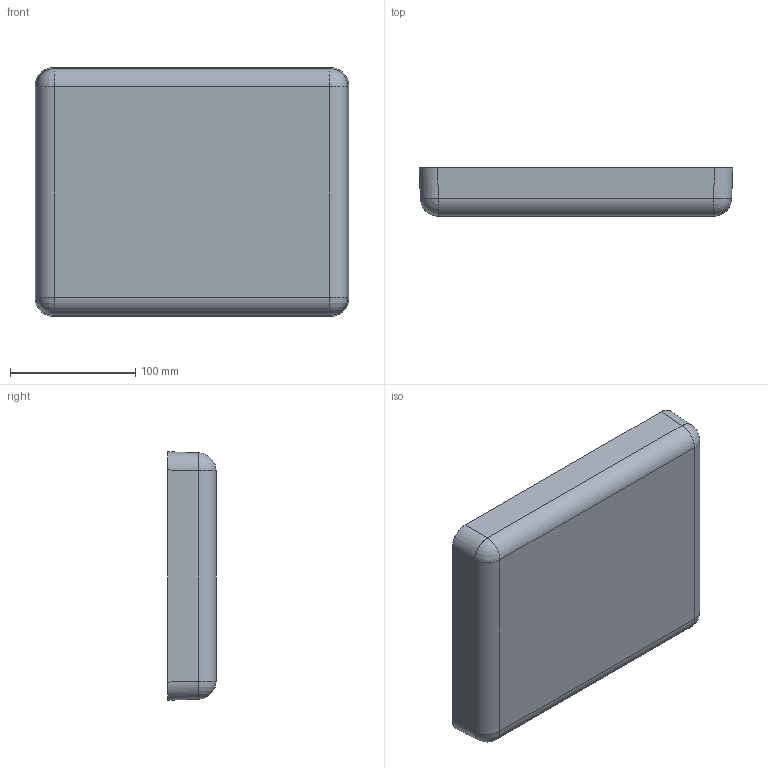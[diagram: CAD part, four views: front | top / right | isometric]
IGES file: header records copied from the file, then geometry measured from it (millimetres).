
Start section: SolidWorks IGES file using analytic representation for surfaces
Global section: file name: C:\working\1300 internet files\1300-CASE-TOP.IGS; native system: SolidWorks 2005 by SolidWorks Corporation; preprocessor: SolidWorks 2005 by SolidWorks Corporation; author: engineer; date: 060209.085115; units: inch
Bounding box: 249.94 x 38.35 x 198.12 mm (x, y, z)
Surface area: 148100.2 mm2 (no closed solid volume)
Topology: 0 solids, 0 shells, 35 faces, 350 edges, 350 vertices
Faces by surface type: revolution 24, bspline 11
